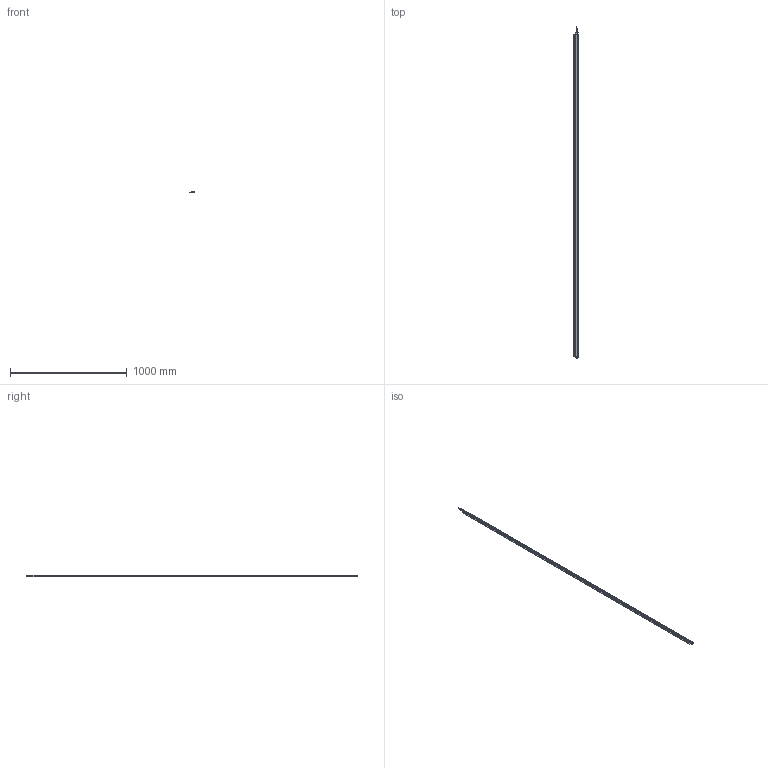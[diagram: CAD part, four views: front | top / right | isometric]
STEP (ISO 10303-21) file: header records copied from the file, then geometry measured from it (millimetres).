
FILE_DESCRIPTION (( 'STEP AP214' ), '1' );
FILE_NAME ('ILGA-L-K2-2790mm.STEP', '2026-04-25T08:28:37', ( '' ), ( '' ), 'SwSTEP 2.0', 'SolidWorks 2025', '' );
FILE_SCHEMA (( 'AUTOMOTIVE_DESIGN' ));
Length unit declared in the file: millimetre
Products named in the file (1): ILGA-L-K2-2790mm
Bounding box: 35 x 2844.5 x 10.7 mm (x, y, z)
Surface area: 431172.8 mm2 (no closed solid volume)
Topology: 0 solids, 13 shells, 931 faces, 2444 edges, 1515 vertices
Faces by surface type: cylinder 380, plane 343, cone 86, bspline 56, torus 50, sphere 16
Entity records: 41246 total; most frequent: CARTESIAN_POINT 8504, ORIENTED_EDGE 4769, DIRECTION 4682, EDGE_CURVE 2392, AXIS2_PLACEMENT_3D 1797, VERTEX_POINT 1515, VECTOR 1088, LINE 1088
